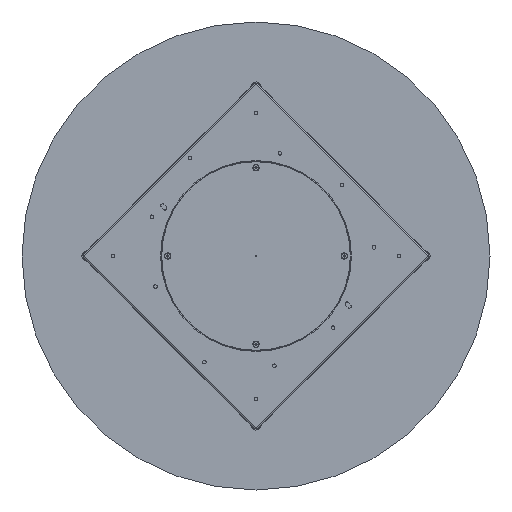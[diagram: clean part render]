
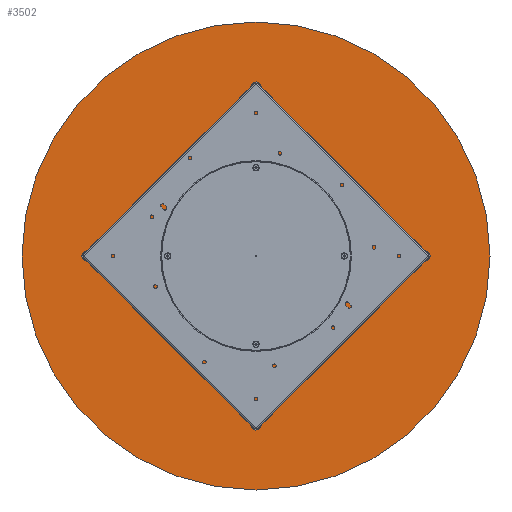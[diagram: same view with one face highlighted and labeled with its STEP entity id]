
A CAD part, front view. The second image highlights one B-rep face of the part: STEP entity #3502.
In plain terms, the highlighted planar face has unit normal (0, -1, 0).
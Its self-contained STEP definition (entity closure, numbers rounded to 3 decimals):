
#149 = DIRECTION ( 'NONE',  ( 0., -1., 0. ) ) ;
#185 = PLANE ( 'NONE',  #9000 ) ;
#232 = CARTESIAN_POINT ( 'NONE',  ( 0., 0., 0. ) ) ;
#1086 = EDGE_CURVE ( 'NONE', #2786, #7417, #13479, .T. ) ;
#2256 = ORIENTED_EDGE ( 'NONE', *, *, #1086, .T. ) ;
#2577 = DIRECTION ( 'NONE',  ( 0., -1., 0. ) ) ;
#2786 = VERTEX_POINT ( 'NONE', #13638 ) ;
#3502 = ADVANCED_FACE ( 'NONE', ( #11016 ), #185, .T. ) ;
#4845 = EDGE_LOOP ( 'NONE', ( #2256, #5762 ) ) ;
#4991 = DIRECTION ( 'NONE',  ( 0., 0., -1. ) ) ;
#5762 = ORIENTED_EDGE ( 'NONE', *, *, #6916, .T. ) ;
#6916 = EDGE_CURVE ( 'NONE', #7417, #2786, #9373, .T. ) ;
#7202 = CARTESIAN_POINT ( 'NONE',  ( 0., 0., 650. ) ) ;
#7417 = VERTEX_POINT ( 'NONE', #7202 ) ;
#9000 = AXIS2_PLACEMENT_3D ( 'NONE', #13057, #14609, #4991 ) ;
#9373 = CIRCLE ( 'NONE', #14373, 650. ) ;
#9648 = CARTESIAN_POINT ( 'NONE',  ( 0., 0., 0. ) ) ;
#9804 = DIRECTION ( 'NONE',  ( 0., 0., -1. ) ) ;
#11016 = FACE_OUTER_BOUND ( 'NONE', #4845, .T. ) ;
#11971 = AXIS2_PLACEMENT_3D ( 'NONE', #9648, #2577, #9804 ) ;
#12237 = DIRECTION ( 'NONE',  ( 0., 0., -1. ) ) ;
#13057 = CARTESIAN_POINT ( 'NONE',  ( 0., 0., 0. ) ) ;
#13479 = CIRCLE ( 'NONE', #11971, 650. ) ;
#13638 = CARTESIAN_POINT ( 'NONE',  ( 0., 0., -650. ) ) ;
#14373 = AXIS2_PLACEMENT_3D ( 'NONE', #232, #149, #12237 ) ;
#14609 = DIRECTION ( 'NONE',  ( 0., -1., 0. ) ) ;
